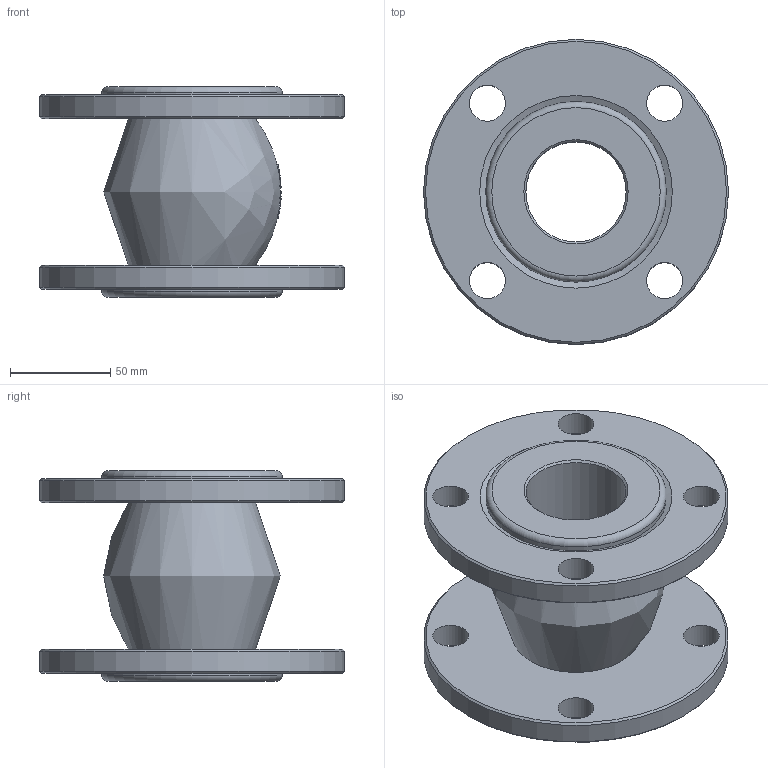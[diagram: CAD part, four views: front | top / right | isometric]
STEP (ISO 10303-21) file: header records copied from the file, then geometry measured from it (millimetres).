
FILE_DESCRIPTION(/* description */ ('D140-02162','CAx-IF Rec.Pracs.---Representation and Presentation of Product Manufacturing Information (PMI)---4.0---2014-10-13'),/* implementation_level */ '2;1');
FILE_NAME(/* name */ '',/* time_stamp */ '2026-04-30T10:56:31+03:00',/* author */ ('DN.RU'),/* organization */ ('DN.RU'),/* preprocessor_version */ 'ST-DEVELOPER v20',/* originating_system */ 'Autodesk Inventor 2025',/* authorisation */ '');
FILE_SCHEMA (('AP242_MANAGED_MODEL_BASED_3D_ENGINEERING_MIM_LF { 1 0 10303 442 1 1 4 }'));
Length unit declared in the file: millimetre
Products named in the file (1): CR-E25-F
Bounding box: 152 x 152 x 105 mm (x, y, z)
Volume: 623088.3 mm3; surface area: 112672.5 mm2
Topology: 1 solids, 1 shells, 99 faces, 264 edges, 174 vertices
Faces by surface type: plane 43, bspline 34, cylinder 13, cone 7, torus 2
Full cylindrical faces by diameter (mm): 18 x8, 50 x1, 90 x2, 152 x2
Entity records: 4205 total; most frequent: CARTESIAN_POINT 1592, ORIENTED_EDGE 528, DIRECTION 474, EDGE_CURVE 264, AXIS2_PLACEMENT_3D 197, VERTEX_POINT 174, EDGE_LOOP 124, CIRCLE 118
